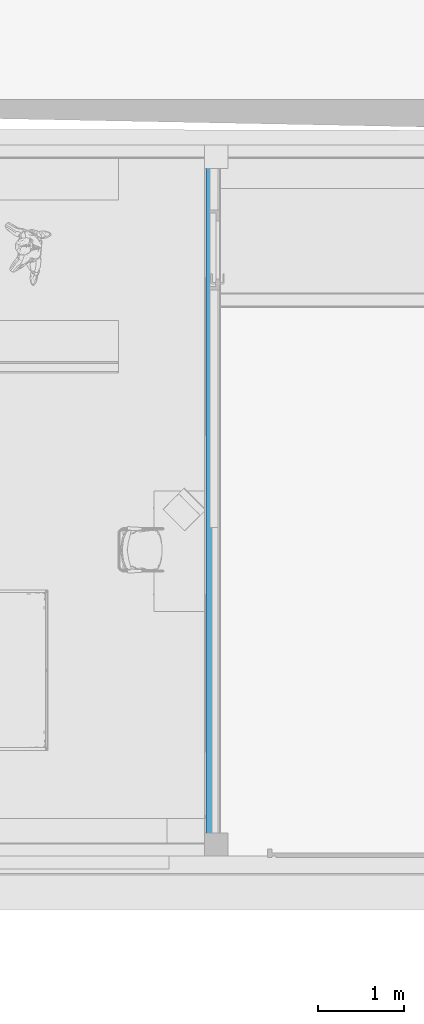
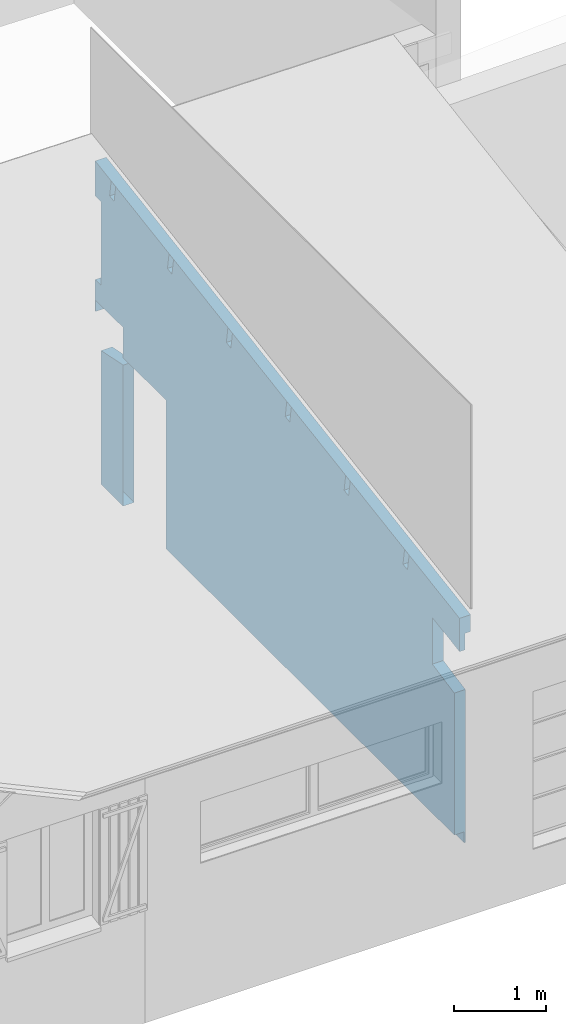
# One storey, part 14 of 24: 1 building element part, 1 opening, 1 element without a shape of its own.
"""IFC2X3 building model written with IfcOpenShell, lengths in metres."""

from ifc_helpers import new_model, entity, si_unit, converted_unit, derived_unit, money_unit, direction, frame, origin_with_axes, origin_2d_with_axis, place, context, subcontext, project, spatial, polyline, rectangle, outline, extrude, boolean, faceted_brep, material, type_object, element, aggregate, save


model = new_model("IFC2X3")

# Units and contexts
model_context = context("Model", 3, precision=1e-05, world=origin_with_axes(), true_north=direction((0.0, 1.0)))
body_context = subcontext(model_context, "Body", "Model", "MODEL_VIEW")
ifc_project = project(units=[si_unit("LENGTHUNIT", "METRE"), si_unit("AREAUNIT", "SQUARE_METRE"), si_unit("VOLUMEUNIT", "CUBIC_METRE"), converted_unit("PLANEANGLEUNIT", "DEGREE", entity("IfcPlaneAngleMeasure", 0.0174532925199), si_unit("PLANEANGLEUNIT", "RADIAN"), dimensions=[0, 0, 0, 0, 0, 0, 0]), si_unit("SOLIDANGLEUNIT", "STERADIAN"), money_unit("CHF"), converted_unit("TIMEUNIT", "Year", entity("IfcTimeMeasure", 31556926.0), si_unit("TIMEUNIT", "SECOND"), dimensions=[0, 0, 1, 0, 0, 0, 0]), si_unit("MASSUNIT", "GRAM", prefix="KILO"), si_unit("THERMODYNAMICTEMPERATUREUNIT", "DEGREE_CELSIUS"), si_unit("LUMINOUSINTENSITYUNIT", "LUMEN"), si_unit("ENERGYUNIT", "JOULE", prefix="MEGA"), derived_unit("THERMALCONDUCTANCEUNIT", [(si_unit("POWERUNIT", "WATT"), 1), (si_unit("LENGTHUNIT", "METRE"), -1), (si_unit("THERMODYNAMICTEMPERATUREUNIT", "KELVIN"), -1)]), derived_unit("SPECIFICHEATCAPACITYUNIT", [(si_unit("ENERGYUNIT", "JOULE"), 1), (si_unit("MASSUNIT", "GRAM", prefix="KILO"), -1), (si_unit("THERMODYNAMICTEMPERATUREUNIT", "KELVIN"), -1)]), derived_unit("MASSDENSITYUNIT", [(si_unit("MASSUNIT", "GRAM", prefix="KILO"), 1), (si_unit("VOLUMEUNIT", "CUBIC_METRE"), -1)])], contexts=[model_context])

# Site, building, storey
site_placement = place(None, origin_with_axes())
site = spatial("IfcSite", under=ifc_project, at=site_placement, Name="Site", CompositionType="ELEMENT")
building_placement = place(site_placement, origin_with_axes())
building = spatial("IfcBuilding", under=site, at=building_placement, Name="Bâtiment", CompositionType="ELEMENT")
storey_placement = place(building_placement, origin_with_axes())
storey = spatial("IfcBuildingStorey", under=building, at=storey_placement, Name="Rez-de-chaussée", CompositionType="ELEMENT", Elevation=0.0)

# Wall, opening, building element part
wall_type = type_object("IfcWallType", Name="3.3c - Cloison doublage isolation + plâtre 2 faces 170", PredefinedType="ELEMENTEDWALL")
wall_placement = place(storey_placement, frame((27.7121417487, 8.1079346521, -0.13), z_axis=(0.0, 0.0, 1.0), x_axis=(0.0, 1.0, 0.0)))
wall = element("IfcWall", 1, at=wall_placement, inside=storey, type_object=wall_type, Name="MUR_EXT-008", ObjectType="ELEMENTEDWALL")
opening_placement = place(wall_placement, frame((6.87, 0.0, 0.13), z_axis=(0.0, 0.0, 1.0), x_axis=(1.0, 0.0, 0.0)))
element("IfcOpeningElement", 2, at=opening_placement, cuts=wall, Name="PORTE-004", context=body_context, shape_type="SweptSolid", body=[
    extrude(rectangle(XDim=0.93, YDim=2.12, at=origin_2d_with_axis()), frame((0.0, 0.17, 1.06), z_axis=(0.0, 1.0, 0.0), x_axis=(1.0, 0.0, 0.0)), (0.0, 0.0, -1.0), 0.51),
])
ifc_material = material(Name="Cloison - Isolation")
building_element_part_placement = place(wall_placement, origin_with_axes())
solid = boolean("DIFFERENCE", boolean("DIFFERENCE", boolean("DIFFERENCE", boolean("DIFFERENCE", boolean("DIFFERENCE", boolean("DIFFERENCE", boolean("DIFFERENCE", boolean("DIFFERENCE", extrude(outline(polyline([(0.0, 0.015), (8.3, 0.015), (8.3, 0.155), (0.0, 0.155), (0.0, 0.015)])), origin_with_axes(), (0.0, 0.0, 1.0), 6.01874511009), faceted_brep([(1.09999229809, 0.17, 3.40376334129), (1.19873643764, 0.17, 3.41956191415), (1.23349329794, 0.17, 3.20232480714), (1.13474915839, 0.17, 3.18652623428), (1.09999229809, 0.155, 3.40376334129), (1.19873643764, 0.155, 3.41956191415), (1.23349329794, 0.155, 3.20232480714), (1.13474915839, 0.155, 3.18652623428)], [[[0, 1, 2, 3]], [[1, 0, 4, 5]], [[2, 1, 5, 6]], [[3, 2, 6, 7]], [[0, 3, 7, 4]], [[4, 7, 6, 5]]])), faceted_brep([(2.38366611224, 0.17, 3.6091447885), (2.48241025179, 0.17, 3.62494336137), (2.51716711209, 0.17, 3.40770625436), (2.41842297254, 0.17, 3.39190768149), (2.38366611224, 0.155, 3.6091447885), (2.48241025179, 0.155, 3.62494336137), (2.51716711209, 0.155, 3.40770625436), (2.41842297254, 0.155, 3.39190768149)], [[[0, 1, 2, 3]], [[1, 0, 4, 5]], [[2, 1, 5, 6]], [[3, 2, 6, 7]], [[0, 3, 7, 4]], [[4, 7, 6, 5]]])), faceted_brep([(3.6673399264, 0.17, 3.81452623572), (3.76608406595, 0.17, 3.83032480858), (3.80084092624, 0.17, 3.61308770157), (3.70209678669, 0.17, 3.59728912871), (3.6673399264, 0.155, 3.81452623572), (3.76608406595, 0.155, 3.83032480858), (3.80084092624, 0.155, 3.61308770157), (3.70209678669, 0.155, 3.59728912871)], [[[0, 1, 2, 3]], [[1, 0, 4, 5]], [[2, 1, 5, 6]], [[3, 2, 6, 7]], [[0, 3, 7, 4]], [[4, 7, 6, 5]]])), faceted_brep([(4.95101374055, 0.17, 4.01990768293), (5.0497578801, 0.17, 4.0357062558), (5.0845147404, 0.17, 3.81846914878), (4.98577060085, 0.17, 3.80267057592), (4.95101374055, 0.155, 4.01990768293), (5.0497578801, 0.155, 4.0357062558), (5.0845147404, 0.155, 3.81846914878), (4.98577060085, 0.155, 3.80267057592)], [[[0, 1, 2, 3]], [[1, 0, 4, 5]], [[2, 1, 5, 6]], [[3, 2, 6, 7]], [[0, 3, 7, 4]], [[4, 7, 6, 5]]])), faceted_brep([(6.2346875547, 0.17, 4.22528913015), (6.33343169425, 0.17, 4.24108770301), (6.36818855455, 0.17, 4.023850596), (6.269444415, 0.17, 4.00805202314), (6.2346875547, 0.155, 4.22528913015), (6.33343169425, 0.155, 4.24108770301), (6.36818855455, 0.155, 4.023850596), (6.269444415, 0.155, 4.00805202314)], [[[0, 1, 2, 3]], [[1, 0, 4, 5]], [[2, 1, 5, 6]], [[3, 2, 6, 7]], [[0, 3, 7, 4]], [[4, 7, 6, 5]]])), faceted_brep([(7.49583260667, 0.17, 4.42706608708), (7.59457674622, 0.17, 4.44286465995), (7.62933360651, 0.17, 4.22562755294), (7.53058946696, 0.17, 4.20982898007), (7.49583260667, 0.155, 4.42706608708), (7.59457674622, 0.155, 4.44286465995), (7.62933360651, 0.155, 4.22562755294), (7.53058946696, 0.155, 4.20982898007)], [[[0, 1, 2, 3]], [[1, 0, 4, 5]], [[2, 1, 5, 6]], [[3, 2, 6, 7]], [[0, 3, 7, 4]], [[4, 7, 6, 5]]])), faceted_brep([(0.595, 0.155, 2.88025371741), (0.0, 0.155, 2.78505666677), (0.0, 0.155, 0.0), (8.3, 0.155, 0.0), (8.3, 0.155, 6.01874511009), (0.0, 0.155, 6.01874511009), (0.0, 0.155, 3.2291999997), (7.9300000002, 0.155, 4.49799999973), (7.93000000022, 0.155, 4.03253522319), (7.815, 0.155, 4.03253522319), (7.815, 0.155, 2.92), (7.93000000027, 0.155, 2.92), (7.93000000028, 0.155, 2.65156535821), (7.335, 0.155, 2.65156535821), (7.335, 0.155, 2.15156535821), (7.815, 0.155, 2.05557143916), (7.815, 0.155, 0.275), (0.115, 0.155, 0.275), (0.115, 0.155, 2.16426351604), (0.595, 0.155, 2.26025743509), (0.0, 0.17, 2.78505666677), (0.595, 0.17, 2.88025371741), (0.0, 0.17, 0.0), (8.3, 0.17, 0.0), (8.3, 0.17, 6.01874511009), (0.0, 0.17, 6.01874511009), (0.0, 0.17, 3.2291999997), (7.9300000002, 0.17, 4.49799999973), (7.93000000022, 0.17, 4.03253522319), (7.815, 0.17, 4.03253522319), (7.815, 0.17, 2.92), (7.93000000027, 0.17, 2.92), (7.93000000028, 0.17, 2.65156535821), (7.335, 0.17, 2.65156535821), (7.335, 0.17, 2.15156535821), (7.815, 0.17, 2.05557143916), (7.815, 0.17, 0.275), (0.115, 0.17, 0.275), (0.115, 0.17, 2.16426351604), (0.595, 0.17, 2.26025743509)], [[[0, 1, 2, 3, 4, 5, 6, 7, 8, 9, 10, 11, 12, 13, 14, 15, 16, 17, 18, 19]], [[20, 1, 0, 21]], [[1, 20, 22, 2]], [[3, 2, 22, 23]], [[4, 3, 23, 24]], [[25, 5, 4, 24]], [[26, 6, 5, 25]], [[6, 26, 27, 7]], [[8, 7, 27, 28]], [[28, 29, 9, 8]], [[29, 30, 10, 9]], [[30, 31, 11, 10]], [[12, 11, 31, 32]], [[32, 33, 13, 12]], [[33, 34, 14, 13]], [[34, 35, 15, 14]], [[35, 36, 16, 15]], [[36, 37, 17, 16]], [[37, 38, 18, 17]], [[38, 39, 19, 18]], [[39, 21, 0, 19]], [[27, 26, 25, 24, 23, 22, 20, 21, 39, 38, 37, 36, 35, 34, 33, 32, 31, 30, 29, 28]]])), faceted_brep([(1.09999229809, 0.155, 3.40376334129), (1.19873643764, 0.155, 3.41956191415), (1.23349329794, 0.155, 3.20232480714), (1.13474915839, 0.155, 3.18652623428), (1.09999229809, 0.015, 3.40376334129), (1.19873643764, 0.015, 3.41956191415), (1.23349329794, 0.015, 3.20232480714), (1.23349329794, 0.085, 3.20232480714), (1.13474915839, 0.085, 3.18652623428), (1.13474915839, 0.015, 3.18652623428), (0.0, 0.015, 3.2291999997), (7.94499999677, 0.015, 4.50039999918), (7.94499999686, 0.015, 4.27613261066), (7.62933360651, 0.015, 4.22562755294), (7.59457674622, 0.015, 4.44286465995), (7.49583260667, 0.015, 4.42706608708), (7.53058946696, 0.015, 4.20982898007), (6.36818855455, 0.015, 4.023850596), (6.33343169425, 0.015, 4.24108770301), (6.2346875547, 0.015, 4.22528913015), (6.269444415, 0.015, 4.00805202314), (5.0845147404, 0.015, 3.81846914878), (5.0497578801, 0.015, 4.0357062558), (4.95101374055, 0.015, 4.01990768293), (4.98577060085, 0.015, 3.80267057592), (3.80084092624, 0.015, 3.61308770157), (3.76608406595, 0.015, 3.83032480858), (3.6673399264, 0.015, 3.81452623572), (3.70209678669, 0.015, 3.59728912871), (2.51716711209, 0.015, 3.40770625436), (2.48241025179, 0.015, 3.62494336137), (2.38366611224, 0.015, 3.6091447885), (2.41842297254, 0.015, 3.39190768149), (0.0, 0.015, 3.00497199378), (0.0, 0.015, 0.0), (8.3, 0.015, 0.0), (8.3, 0.015, 6.01874511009), (0.0, 0.015, 6.01874511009), (7.935, 0.015, 2.50156535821), (7.935, 0.015, 2.65156535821), (7.94499999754, 0.015, 2.65156535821), (7.9449999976, 0.015, 2.50156535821), (7.815, 0.015, 2.92), (7.94499999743, 0.015, 2.92), (7.94499999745, 0.015, 2.87156535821), (3.65482836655, 0.015, 2.87156535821), (3.65482836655, 0.015, 2.65156535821), (7.335, 0.015, 2.65156535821), (7.335, 0.015, 2.15156535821), (7.815, 0.015, 2.05557143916), (7.815, 0.015, 0.275), (2.38843616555, 0.015, 0.275), (2.38843616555, 0.015, 0.13), (0.115, 0.015, 0.13), (0.115, 0.015, 2.16426351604), (0.595, 0.015, 2.26025743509), (0.595, 0.015, 2.87737101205), (7.815, 0.015, 4.03253522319), (7.815, 0.015, 4.03253522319), (7.94499999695, 0.015, 4.05333457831), (7.94499999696, 0.015, 4.03253522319), (2.41842297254, 0.085, 3.39190768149), (0.0, 0.085, 2.78505666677), (0.0, 0.085, 3.00497199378), (2.51716711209, 0.085, 3.40770625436), (3.70209678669, 0.085, 3.59728912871), (3.80084092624, 0.085, 3.61308770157), (4.98577060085, 0.085, 3.80267057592), (5.0845147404, 0.085, 3.81846914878), (6.269444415, 0.085, 4.00805202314), (6.36818855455, 0.085, 4.023850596), (7.53058946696, 0.085, 4.20982898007), (7.62933360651, 0.085, 4.22562755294), (7.94499999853, 0.085, 4.27613261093), (7.94499999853, 0.085, 4.05333457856), (7.815, 0.085, 4.03253522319), (0.595, 0.085, 2.87737101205), (0.595, 0.085, 2.88025371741), (0.0, 0.155, 3.2291999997), (7.9449999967, 0.155, 4.50039999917), (7.9449999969, 0.155, 4.03253522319), (7.59457674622, 0.155, 4.44286465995), (7.62933360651, 0.155, 4.22562755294), (7.49583260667, 0.155, 4.42706608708), (7.53058946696, 0.155, 4.20982898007), (6.33343169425, 0.155, 4.24108770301), (6.36818855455, 0.155, 4.023850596), (6.2346875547, 0.155, 4.22528913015), (6.269444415, 0.155, 4.00805202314), (5.0497578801, 0.155, 4.0357062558), (5.0845147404, 0.155, 3.81846914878), (4.95101374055, 0.155, 4.01990768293), (4.98577060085, 0.155, 3.80267057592), (3.76608406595, 0.155, 3.83032480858), (3.80084092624, 0.155, 3.61308770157), (3.6673399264, 0.155, 3.81452623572), (3.70209678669, 0.155, 3.59728912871), (2.48241025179, 0.155, 3.62494336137), (2.51716711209, 0.155, 3.40770625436), (2.38366611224, 0.155, 3.6091447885), (2.41842297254, 0.155, 3.39190768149), (0.0, 0.155, 2.78505666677), (0.0, 0.155, 0.0), (8.3, 0.155, 0.0), (8.3, 0.155, 6.01874511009), (0.0, 0.155, 6.01874511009), (7.935, 0.155, 2.50156535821), (7.935, 0.155, 2.65156535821), (7.935, 0.11, 2.65156535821), (7.94499999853, 0.11, 2.65156535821), (7.94499999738, 0.155, 2.92), (7.94499999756, 0.155, 2.50156535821), (7.94499999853, 0.11, 2.87156535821), (7.815, 0.155, 2.92), (3.65482836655, 0.11, 2.87156535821), (3.65482836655, 0.11, 2.65156535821), (7.335, 0.11, 2.65156535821), (7.335, 0.155, 2.15156535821), (7.335, 0.155, 2.65156535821), (7.815, 0.155, 2.05557143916), (7.815, 0.155, 0.275), (0.115, 0.155, 0.275), (0.115, 0.0328768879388, 0.275), (0.115, 0.0328768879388, 0.13), (0.115, 0.155, 2.16426351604), (0.595, 0.155, 2.26025743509), (0.595, 0.155, 2.88025371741), (7.815, 0.155, 4.03253522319)], [[[0, 1, 2, 3]], [[0, 4, 5, 1]], [[1, 5, 6, 7, 2]], [[2, 7, 8, 3]], [[3, 8, 9, 4, 0]], [[10, 11, 12, 13, 14, 15, 16, 17, 18, 19, 20, 21, 22, 23, 24, 25, 26, 27, 28, 29, 30, 31, 32, 6, 5, 4, 9, 33, 34, 35, 36, 37], [38, 39, 40, 41], [42, 43, 44, 45, 46, 47, 48, 49, 50, 51, 52, 53, 54, 55, 56, 57], [58, 59, 60]], [[6, 32, 61, 7]], [[62, 63, 8, 7, 61, 64, 65, 66, 67, 68, 69, 70, 71, 72, 73, 74, 75, 76, 77]], [[63, 33, 9, 8]], [[11, 10, 78, 79]], [[12, 11, 79, 80, 60, 59, 74, 73]], [[12, 73, 72, 13]], [[81, 14, 13, 72, 82]], [[83, 15, 14, 81]], [[84, 71, 16, 15, 83]], [[70, 17, 16, 71]], [[85, 18, 17, 70, 86]], [[87, 19, 18, 85]], [[88, 69, 20, 19, 87]], [[21, 20, 69, 68]], [[89, 22, 21, 68, 90]], [[91, 23, 22, 89]], [[92, 67, 24, 23, 91]], [[66, 25, 24, 67]], [[93, 26, 25, 66, 94]], [[95, 27, 26, 93]], [[96, 65, 28, 27, 95]], [[64, 29, 28, 65]], [[97, 30, 29, 64, 98]], [[99, 31, 30, 97]], [[100, 61, 32, 31, 99]], [[62, 101, 102, 34, 33, 63]], [[35, 34, 102, 103]], [[36, 35, 103, 104]], [[105, 37, 36, 104]], [[78, 10, 37, 105]], [[39, 38, 106, 107, 108]], [[40, 39, 108, 109]], [[44, 43, 110, 111, 41, 40, 109, 112]], [[38, 41, 111, 106]], [[43, 42, 113, 110]], [[44, 112, 114, 45]], [[46, 45, 114, 115]], [[115, 116, 47, 46]], [[117, 48, 47, 116, 118]], [[119, 49, 48, 117]], [[120, 50, 49, 119]], [[121, 122, 51, 50, 120]], [[122, 123, 52, 51]], [[53, 52, 123]], [[124, 54, 53, 123, 122, 121]], [[125, 55, 54, 124]], [[126, 77, 76, 56, 55, 125]], [[75, 57, 56, 76]], [[113, 42, 57, 75, 127]], [[59, 58, 75, 74]], [[60, 80, 127, 75, 58]], [[98, 64, 61, 100]], [[94, 66, 65, 96]], [[90, 68, 67, 92]], [[86, 70, 69, 88]], [[82, 72, 71, 84]], [[101, 62, 77, 126]], [[79, 78, 105, 104, 103, 102, 101, 126, 125, 124, 121, 120, 119, 117, 118, 107, 106, 111, 110, 113, 127, 80]], [[83, 81, 82, 84]], [[87, 85, 86, 88]], [[91, 89, 90, 92]], [[95, 93, 94, 96]], [[99, 97, 98, 100]], [[107, 118, 116, 108]], [[115, 114, 112, 109, 108, 116]]]))
building_element_part = element("IfcBuildingElementPart", 3, at=building_element_part_placement, material=ifc_material, Name="Cloison - Isolation", context=body_context, shape_type="CSG", body=[
    boolean("DIFFERENCE", solid, faceted_brep([(3.65482836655, 0.01, 2.87156535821), (3.65482836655, 0.01, 2.65156535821), (7.335, 0.01, 2.65156535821), (7.93000000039, 0.01, 2.65156535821), (7.93000000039, 0.01, 2.87156535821), (3.65482836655, 0.015, 2.87156535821), (3.65482836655, 0.015, 2.65156535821), (7.335, 0.015, 2.65156535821), (7.335, 0.0, 2.65156535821), (7.93000000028, 0.0, 2.65156535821), (7.93000000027, 0.015, 2.92), (7.93000000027, 0.015, 2.87156535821), (7.93000000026, 0.0, 2.92), (0.0, 0.015, 0.0), (0.0, 0.015, 3.00497199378), (1.13474915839, 0.015, 3.18652623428), (1.09999229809, 0.015, 3.40376334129), (1.19873643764, 0.015, 3.41956191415), (1.23349329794, 0.015, 3.20232480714), (2.41842297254, 0.015, 3.39190768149), (2.38366611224, 0.015, 3.6091447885), (2.48241025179, 0.015, 3.62494336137), (2.51716711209, 0.015, 3.40770625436), (3.70209678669, 0.015, 3.59728912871), (3.6673399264, 0.015, 3.81452623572), (3.76608406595, 0.015, 3.83032480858), (3.80084092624, 0.015, 3.61308770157), (4.98577060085, 0.015, 3.80267057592), (4.95101374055, 0.015, 4.01990768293), (5.0497578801, 0.015, 4.0357062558), (5.0845147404, 0.015, 3.81846914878), (6.269444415, 0.015, 4.00805202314), (6.2346875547, 0.015, 4.22528913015), (6.33343169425, 0.015, 4.24108770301), (6.36818855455, 0.015, 4.023850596), (7.53058946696, 0.015, 4.20982898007), (7.49583260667, 0.015, 4.42706608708), (7.59457674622, 0.015, 4.44286465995), (7.62933360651, 0.015, 4.22562755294), (7.9300000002, 0.015, 4.27373268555), (7.93000000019, 0.015, 4.49799999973), (0.0, 0.015, 3.2291999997), (0.0, 0.015, 6.01874511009), (8.3, 0.015, 6.01874511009), (8.3, 0.015, 0.0), (0.115, 0.015, 0.13), (2.38843616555, 0.015, 0.13), (2.38843616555, 0.015, 0.275), (7.815, 0.015, 0.275), (7.815, 0.015, 2.05557143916), (7.335, 0.015, 2.15156535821), (7.815, 0.015, 2.92), (7.815, 0.015, 4.03253522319), (7.93000000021, 0.015, 4.03253522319), (7.93000000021, 0.015, 4.05093465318), (7.815, 0.015, 4.03253522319), (0.595, 0.015, 2.87737101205), (0.595, 0.015, 2.26025743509), (0.115, 0.015, 2.16426351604), (7.335, 0.0, 2.15156535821), (0.0, 0.0, 3.00497199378), (0.0, 0.0, 0.0), (8.3, 0.0, 0.0), (8.3, 0.0, 6.01874511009), (0.0, 0.0, 6.01874511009), (0.0, 0.0, 3.2291999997), (7.93000000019, 0.0, 4.49799999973), (7.9300000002, 0.0, 4.27373268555), (7.62933360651, 0.0, 4.22562755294), (7.59457674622, 0.0, 4.44286465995), (7.49583260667, 0.0, 4.42706608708), (7.53058946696, 0.0, 4.20982898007), (6.36818855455, 0.0, 4.023850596), (6.33343169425, 0.0, 4.24108770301), (6.2346875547, 0.0, 4.22528913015), (6.269444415, 0.0, 4.00805202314), (5.0845147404, 0.0, 3.81846914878), (5.0497578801, 0.0, 4.0357062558), (4.95101374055, 0.0, 4.01990768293), (4.98577060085, 0.0, 3.80267057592), (3.80084092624, 0.0, 3.61308770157), (3.76608406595, 0.0, 3.83032480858), (3.6673399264, 0.0, 3.81452623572), (3.70209678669, 0.0, 3.59728912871), (2.51716711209, 0.0, 3.40770625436), (2.48241025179, 0.0, 3.62494336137), (2.38366611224, 0.0, 3.6091447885), (2.41842297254, 0.0, 3.39190768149), (1.23349329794, 0.0, 3.20232480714), (1.19873643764, 0.0, 3.41956191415), (1.09999229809, 0.0, 3.40376334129), (1.13474915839, 0.0, 3.18652623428), (0.115, 0.0, 2.16426351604), (0.595, 0.0, 2.26025743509), (0.595, 0.0, 2.87737101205), (7.815, 0.0, 4.03253522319), (7.93000000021, 0.0, 4.05093465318), (7.93000000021, 0.0, 4.03253522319), (7.815, 0.0, 4.03253522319), (7.815, 0.0, 2.92), (7.815, 0.0, 2.05557143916), (7.815, 0.0, 0.275), (4.29601328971, 0.0, 0.275), (4.29601328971, 0.0, 0.13), (0.115, 0.0, 0.13)], [[[0, 1, 2, 3, 4]], [[5, 6, 1, 0]], [[6, 7, 2, 1]], [[3, 2, 8, 9]], [[10, 11, 4, 3, 9, 12]], [[11, 5, 0, 4]], [[13, 14, 15, 16, 17, 18, 19, 20, 21, 22, 23, 24, 25, 26, 27, 28, 29, 30, 31, 32, 33, 34, 35, 36, 37, 38, 39, 40, 41, 42, 43, 44], [45, 46, 47, 48, 49, 50, 7, 6, 5, 11, 10, 51, 52, 53, 54, 55, 56, 57, 58]], [[7, 50, 59, 8, 2]], [[60, 61, 62, 63, 64, 65, 66, 67, 68, 69, 70, 71, 72, 73, 74, 75, 76, 77, 78, 79, 80, 81, 82, 83, 84, 85, 86, 87, 88, 89, 90, 91], [92, 93, 94, 95, 96, 97, 98, 99, 12, 9, 8, 59, 100, 101, 102, 103, 104]], [[51, 10, 12, 99]], [[14, 13, 61, 60]], [[15, 14, 60, 91]], [[16, 15, 91, 90]], [[17, 16, 90, 89]], [[18, 17, 89, 88]], [[19, 18, 88, 87]], [[20, 19, 87, 86]], [[21, 20, 86, 85]], [[22, 21, 85, 84]], [[23, 22, 84, 83]], [[24, 23, 83, 82]], [[25, 24, 82, 81]], [[26, 25, 81, 80]], [[27, 26, 80, 79]], [[28, 27, 79, 78]], [[29, 28, 78, 77]], [[30, 29, 77, 76]], [[31, 30, 76, 75]], [[32, 31, 75, 74]], [[33, 32, 74, 73]], [[34, 33, 73, 72]], [[35, 34, 72, 71]], [[36, 35, 71, 70]], [[37, 36, 70, 69]], [[38, 37, 69, 68]], [[39, 38, 68, 67]], [[40, 39, 67, 66]], [[41, 40, 66, 65]], [[42, 41, 65, 64]], [[43, 42, 64, 63]], [[44, 43, 63, 62]], [[13, 44, 62, 61]], [[46, 45, 104, 103]], [[47, 46, 103, 102]], [[48, 47, 102, 101]], [[49, 48, 101, 100]], [[50, 49, 100, 59]], [[52, 51, 99, 98]], [[53, 52, 98, 97]], [[54, 53, 97, 96]], [[55, 54, 96, 95]], [[56, 55, 95, 94]], [[57, 56, 94, 93]], [[58, 57, 93, 92]], [[45, 58, 92, 104]]])),
])
aggregate(wall, [building_element_part])

save(model, "model.ifc")
